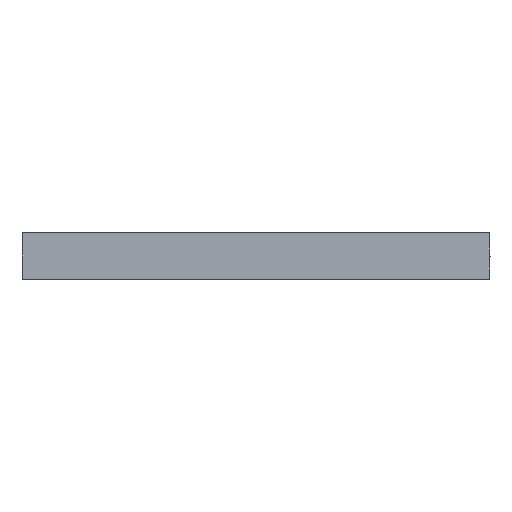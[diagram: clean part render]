
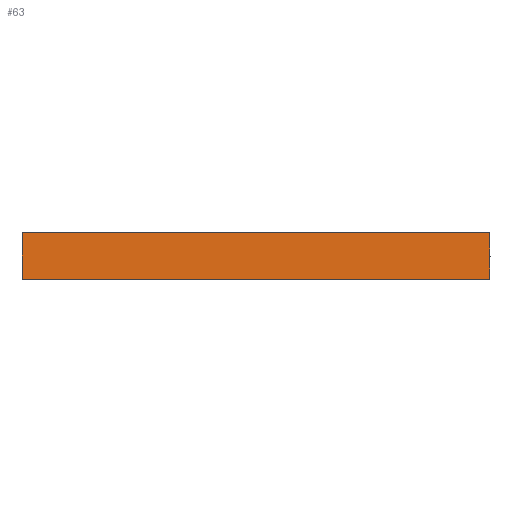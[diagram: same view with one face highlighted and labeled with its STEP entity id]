
A CAD part, front view. The second image highlights one B-rep face of the part: STEP entity #63.
In plain terms, the highlighted free-form (B-spline) face has degree [1, 1] with [5, 2] control points.
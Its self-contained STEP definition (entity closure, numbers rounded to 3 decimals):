
#1=CARTESIAN_POINT('',(10.,0.,0.));
#2=CARTESIAN_POINT('',(10.,0.,1.));
#3=CARTESIAN_POINT('',(0.,10.,0.));
#4=CARTESIAN_POINT('',(0.,10.,1.));
#5=CARTESIAN_POINT('',(-10.,0.,0.));
#6=CARTESIAN_POINT('',(-10.,0.,1.));
#7=CARTESIAN_POINT('',(0.,-10.,0.));
#8=CARTESIAN_POINT('',(0.,-10.,1.));
#9=CARTESIAN_POINT('',(10.,0.,0.));
#10=CARTESIAN_POINT('',(10.,0.,1.));
#20=VERTEX_POINT('',#7);
#21=VERTEX_POINT('',#3);
#22=VERTEX_POINT('',#4);
#23=VERTEX_POINT('',#8);
#30=B_SPLINE_CURVE_WITH_KNOTS('',1,(#7,#1,#3),.UNSPECIFIED.,.F.,.F.,
(2,1,2),(0.,1.,2.),.UNSPECIFIED.);
#31=LINE('',#3,#32);
#32=VECTOR('',#33,1.);
#33=DIRECTION('',(0.,0.,1.));
#34=B_SPLINE_CURVE_WITH_KNOTS('',1,(#4,#2,#8),.UNSPECIFIED.,.F.,.F.,
(2,1,2),(0.,1.,2.),.UNSPECIFIED.);
#35=LINE('',#8,#36);
#36=VECTOR('',#37,1.);
#37=DIRECTION('',(0.,0.,-1.));
#40=EDGE_CURVE('',#20,#21,#30,.T.);
#41=EDGE_CURVE('',#21,#22,#31,.T.);
#42=EDGE_CURVE('',#22,#23,#34,.T.);
#43=EDGE_CURVE('',#23,#20,#35,.T.);
#50=ORIENTED_EDGE('',*,*,#40,.T.);
#51=ORIENTED_EDGE('',*,*,#41,.T.);
#52=ORIENTED_EDGE('',*,*,#42,.T.);
#53=ORIENTED_EDGE('',*,*,#43,.T.);
#60=EDGE_LOOP('',(#50,#51,#52,#53));
#61=FACE_OUTER_BOUND('',#60,.T.);
#62=(BOUNDED_SURFACE()B_SPLINE_SURFACE(1,1,
((#1,#2),(#3,#4),(#5,#6),(#7,#8),(#9,#10)),
.UNSPECIFIED.,.T.,.F.,.F.)
B_SPLINE_SURFACE_WITH_KNOTS((2,1,1,1,2),(2,2),
(0.,1.,2.,3.,4.),(0.,1.),.UNSPECIFIED.)
GEOMETRIC_REPRESENTATION_ITEM()
RATIONAL_B_SPLINE_SURFACE(((1.,1.),(1.,1.),(1.,1.),(1.,1.),(1.,1.)))
REPRESENTATION_ITEM('')SURFACE());
#63=ADVANCED_FACE('',(#61),#62,.T.);
